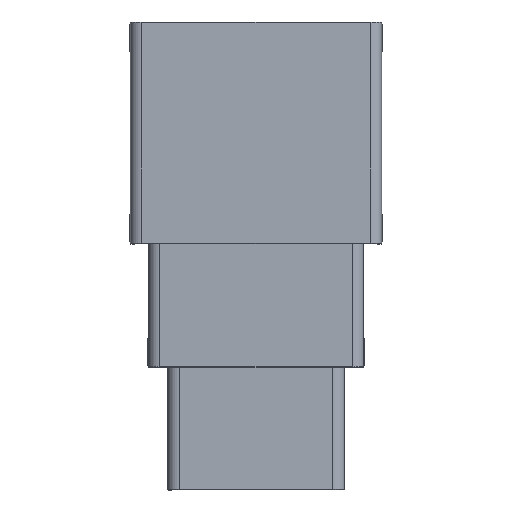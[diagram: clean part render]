
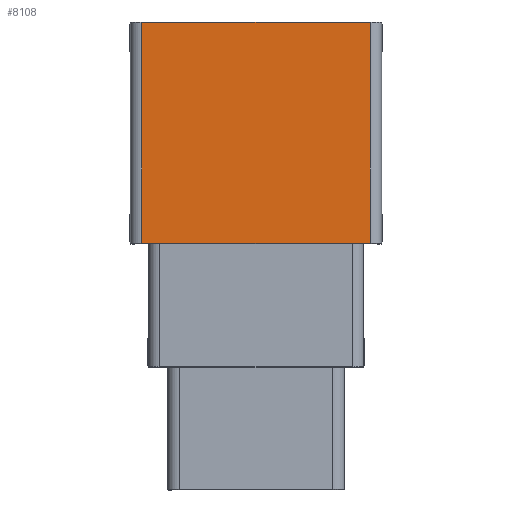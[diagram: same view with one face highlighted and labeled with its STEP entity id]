
A CAD part, top view. The second image highlights one B-rep face of the part: STEP entity #8108.
In plain terms, the highlighted planar face has unit normal (0, 0, 1).
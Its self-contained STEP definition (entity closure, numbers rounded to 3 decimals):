
#7629=CARTESIAN_POINT('',(252.5,-244.0,10.0));
#7630=VERTEX_POINT('',#7629);
#7654=CARTESIAN_POINT('',(-252.5,-244.,10.0));
#7655=VERTEX_POINT('',#7654);
#7656=CARTESIAN_POINT('',(252.5,-244.,10.0));
#7657=DIRECTION('',(-1.0,0.0,0.0));
#7658=VECTOR('',#7657,505.0);
#7659=LINE('',#7656,#7658);
#7660=EDGE_CURVE('',#7630,#7655,#7659,.T.);
#7860=CARTESIAN_POINT('',(-252.5,244.,10.0));
#7861=VERTEX_POINT('',#7860);
#7893=CARTESIAN_POINT('',(252.5,244.,10.0));
#7894=VERTEX_POINT('',#7893);
#7895=CARTESIAN_POINT('',(-252.5,244.,10.0));
#7896=DIRECTION('',(1.0,0.0,0.0));
#7897=VECTOR('',#7896,505.0);
#7898=LINE('',#7895,#7897);
#7899=EDGE_CURVE('',#7861,#7894,#7898,.T.);
#8076=CARTESIAN_POINT('',(-252.5,244.0,10.0));
#8077=DIRECTION('',(0.0,-1.0,0.0));
#8078=VECTOR('',#8077,488.0);
#8079=LINE('',#8076,#8078);
#8080=EDGE_CURVE('',#7861,#7655,#8079,.T.);
#8092=CARTESIAN_POINT('',(0.,0.,10.0));
#8093=DIRECTION('',(0.0,0.0,1.0));
#8094=DIRECTION('',(1.0,0.0,0.0));
#8095=AXIS2_PLACEMENT_3D('',#8092,#8093,#8094);
#8096=PLANE('',#8095);
#8097=ORIENTED_EDGE('',*,*,#7660,.F.);
#8098=CARTESIAN_POINT('',(252.5,-244.0,10.0));
#8099=DIRECTION('',(0.0,1.0,0.0));
#8100=VECTOR('',#8099,488.);
#8101=LINE('',#8098,#8100);
#8102=EDGE_CURVE('',#7630,#7894,#8101,.T.);
#8103=ORIENTED_EDGE('',*,*,#8102,.T.);
#8104=ORIENTED_EDGE('',*,*,#7899,.F.);
#8105=ORIENTED_EDGE('',*,*,#8080,.T.);
#8106=EDGE_LOOP('',(#8097,#8103,#8104,#8105));
#8107=FACE_OUTER_BOUND('',#8106,.T.);
#8108=ADVANCED_FACE('',(#8107),#8096,.T.);
